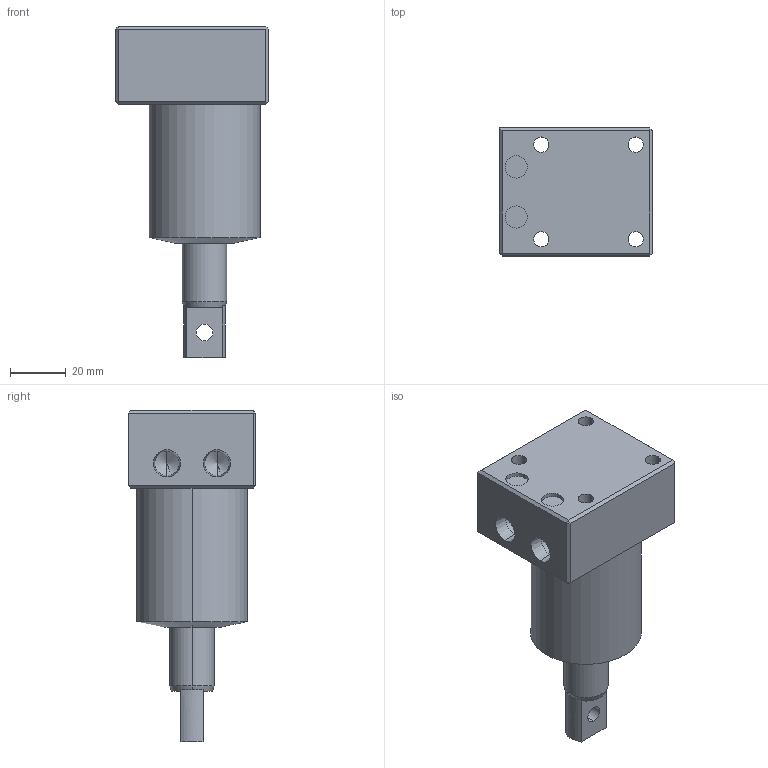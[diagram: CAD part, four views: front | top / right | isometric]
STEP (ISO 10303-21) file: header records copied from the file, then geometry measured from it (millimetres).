
FILE_DESCRIPTION (( 'STEP AP214' ), '1' );
FILE_NAME ('SB03-401-RP-BM-PTYPE.STEP', '2021-08-22T05:45:18', ( '' ), ( '' ), 'SwSTEP 2.0', 'SolidWorks 2019', '' );
FILE_SCHEMA (( 'AUTOMOTIVE_DESIGN' ));
Length unit declared in the file: millimetre
Products named in the file (3): SB03-401-RP-BM-PTYPE; 40-BM-BODY; PTYPE-PISTON
Assembly tree (2 placements, depth 2):
  SB03-401-RP-BM-PTYPE
    40-BM-BODY
    PTYPE-PISTON
Bounding box: 55 x 46 x 119 mm (x, y, z)
Volume: 129513.4 mm3; surface area: 26129.2 mm2
Topology: 2 solids, 2 shells, 70 faces, 159 edges, 95 vertices
Faces by surface type: plane 31, cylinder 27, cone 12
Entity records: 2056 total; most frequent: DIRECTION 364, CARTESIAN_POINT 337, ORIENTED_EDGE 310, EDGE_CURVE 155, AXIS2_PLACEMENT_3D 138, VERTEX_POINT 95, LINE 88, VECTOR 88
